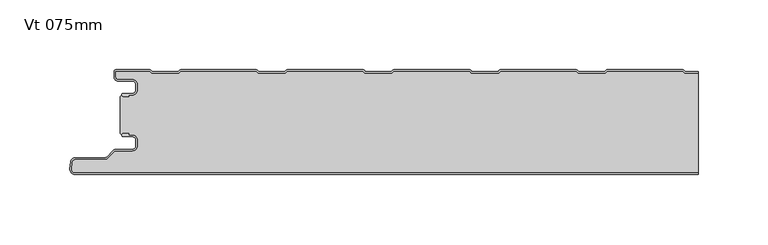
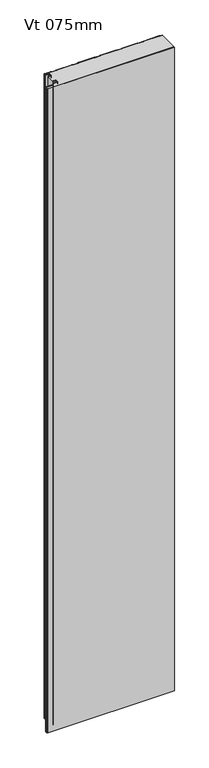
"""IFC4 building model written with IfcOpenShell, lengths in millimetres: plate geometry, KIP-MEX-KSS-1067-R19-CP-Vt-OP_SL : Vt 075mm."""

from ifc_helpers import new_model, si_unit, point, frame, frame_2d, origin, origin_with_axes, place, context, project, spatial, polyline, circle_curve, trimmed, segment, composite_curve, outline, extrude, source, transform, mapped, element, save
from ifc_brep_helpers import plane_surface, cylinder_surface, revolved_surface, advanced_brep


def vt_075mm_9d33335d(model_context):
    return source(origin(), model_context, "Body", "SolidModel", [
        advanced_brep(
        [(-204.468691, -17.0015159, 2400.0), (-205.4686883, -18.0015191, 2400.0), (-204.468691, -19.0015105, 2400.0), (-200.4684874, -19.0015105, 2400.0), (-200.4684874, -18.0015159, 2400.0), (-197.7762776, -18.0015159, 2400.0), (-194.4762819, -14.7015202, 2400.0), (-194.4762819, -10.301529, 2400.0), (-197.7762774, -7.0015335, 2400.0), (-208.1962563, -7.0015335, 2400.0), (-209.9662505, -5.2315393, 2400.0), (-209.9662505, -0.9999916, 2400.0), (-185.4659738, -0.9999916, 2400.0), (-184.0803312, -2.2002307, 2400.0), (-164.7051649, -2.2002307, 2400.0), (-163.319532, -1.0, 2400.0), (-109.2661166, -1.0, 2400.0), (-107.8804836, -2.2002307, 2400.0), (-88.5053173, -2.2002307, 2400.0), (-87.1196844, -1.0, 2400.0), (-33.066269, -1.0, 2400.0), (-31.680636, -2.2002307, 2400.0), (-12.3054697, -2.2002307, 2400.0), (-10.9198368, -1.0, 2400.0), (43.1335786, -1.0, 2400.0), (44.5192116, -2.2002307, 2400.0), (63.8943779, -2.2002307, 2400.0), (65.2800108, -1.0, 2400.0), (119.3334262, -1.0, 2400.0), (120.7190592, -2.2002307, 2400.0), (140.0942255, -2.2002307, 2400.0), (141.4798584, -1.0, 2400.0), (195.5332738, -1.0, 2400.0), (196.9189068, -2.2002307, 2400.0), (206.4999998, -2.2002307, 2400.0), (206.4999998, -1.2002307, 2400.0), (197.2917872, -1.2002307, 2400.0), (196.3007396, -0.3417885, 2400.0), (195.3841227, 0.0, 2400.0), (141.6290096, 0.0, 2400.0), (140.7123927, -0.3417885, 2400.0), (139.7213451, -1.2002307, 2400.0), (121.0919396, -1.2002307, 2400.0), (120.100892, -0.3417885, 2400.0), (119.1842751, 0.0, 2400.0), (65.429162, 0.0, 2400.0), (64.5125451, -0.3417885, 2400.0), (63.5214975, -1.2002307, 2400.0), (44.892092, -1.2002307, 2400.0), (43.9010444, -0.3417885, 2400.0), (42.9844275, 0.0, 2400.0), (-10.7706856, 0.0, 2400.0), (-11.6873025, -0.3417885, 2400.0), (-12.6783501, -1.2002307, 2400.0), (-31.3077556, -1.2002307, 2400.0), (-32.2988032, -0.3417885, 2400.0), (-33.2154201, 0.0, 2400.0), (-86.9705332, 0.0, 2400.0), (-87.8871501, -0.3417885, 2400.0), (-88.8781977, -1.2002307, 2400.0), (-107.5076032, -1.2002307, 2400.0), (-108.4986508, -0.3417885, 2400.0), (-109.4152677, 0.0, 2400.0), (-163.1703808, 0.0, 2400.0), (-164.0869977, -0.3417885, 2400.0), (-165.0780453, -1.2002307, 2400.0), (-183.7074508, -1.2002307, 2400.0), (-184.6984984, -0.3417885, 2400.0), (-185.6152067, 0.0, 2400.0), (-209.5662543, 8.4e-06, 2400.0), (-210.9662505, -1.3999878, 2400.0), (-210.9662505, -5.2315393, 2400.0), (-208.1962563, -8.0015335, 2400.0), (-197.7762774, -8.0015335, 2400.0), (-195.4762819, -10.301529, 2400.0), (-195.4762819, -14.7015202, 2400.0), (-197.7762776, -17.0015159, 2400.0), (-204.468691, -17.0015159, 0.0), (-197.7762776, -17.0015159, 0.0), (-195.4762819, -14.7015202, 0.0), (-195.4762819, -10.301529, 0.0), (-197.7762774, -8.0015335, 0.0), (-208.1962563, -8.0015335, 0.0), (-210.9662505, -5.2315393, 0.0), (-210.9662505, -1.3999878, 0.0), (-209.5662543, 8.4e-06, 0.0), (-185.6151153, 8.4e-06, 0.0), (-184.6984984, -0.3417885, 0.0), (-183.7074508, -1.2002307, 0.0), (-165.0780453, -1.2002307, 0.0), (-164.0869977, -0.3417885, 0.0), (-163.1703808, 0.0, 0.0), (-109.4152677, 0.0, 0.0), (-108.4986508, -0.3417885, 0.0), (-107.5076032, -1.2002307, 0.0), (-88.8781977, -1.2002307, 0.0), (-87.8871501, -0.3417885, 0.0), (-86.9705332, 0.0, 0.0), (-33.2154201, 0.0, 0.0), (-32.2988032, -0.3417885, 0.0), (-31.3077556, -1.2002307, 0.0), (-12.6783501, -1.2002307, 0.0), (-11.6873025, -0.3417885, 0.0), (-10.7706856, 0.0, 0.0), (42.9844275, 0.0, 0.0), (43.9010444, -0.3417885, 0.0), (44.892092, -1.2002307, 0.0), (63.5214975, -1.2002307, 0.0), (64.5125451, -0.3417885, 0.0), (65.429162, 0.0, 0.0), (119.1842751, 0.0, 0.0), (120.100892, -0.3417885, 0.0), (121.0919396, -1.2002307, 0.0), (139.7213451, -1.2002307, 0.0), (140.7123927, -0.3417885, 0.0), (141.6290096, 0.0, 0.0), (195.3841227, 0.0, 0.0), (196.3007396, -0.3417885, 0.0), (197.2917872, -1.2002307, 0.0), (206.4999998, -1.2002307, 0.0), (206.4999998, -2.2002307, 0.0), (196.9189068, -2.2002307, 0.0), (195.5332738, -1.0, 0.0), (141.4798584, -1.0, 0.0), (140.0942255, -2.2002307, 0.0), (120.7190592, -2.2002307, 0.0), (119.3334262, -1.0, 0.0), (65.2800108, -1.0, 0.0), (63.8943779, -2.2002307, 0.0), (44.5192116, -2.2002307, 0.0), (43.1335786, -1.0, 0.0), (-10.9198368, -1.0, 0.0), (-12.3054697, -2.2002307, 0.0), (-31.680636, -2.2002307, 0.0), (-33.066269, -1.0, 0.0), (-87.1196844, -1.0, 0.0), (-88.5053173, -2.2002307, 0.0), (-107.8804836, -2.2002307, 0.0), (-109.2661166, -1.0, 0.0), (-163.319532, -1.0, 0.0), (-164.7051649, -2.2002307, 0.0), (-184.0803312, -2.2002307, 0.0), (-185.4659738, -0.9999916, 0.0), (-209.9662505, -0.9999916, 0.0), (-209.9662505, -5.2315393, 0.0), (-208.1962563, -7.0015335, 0.0), (-197.7762774, -7.0015335, 0.0), (-194.4762819, -10.301529, 0.0), (-194.4762819, -14.7015202, 0.0), (-197.7762776, -18.0015159, 0.0), (-200.4684874, -18.0015159, 0.0), (-200.4684874, -19.0015105, 0.0), (-204.468691, -19.0015105, 0.0), (-205.4686882, -18.0015192, 0.0)],
        [
            (0, 1, circle_curve(frame((-204.468691, -18.0015132, 2400.0), z_axis=(0.0, 0.0, 1.0), x_axis=(1.0, 0.0, 0.0)), 0.9999973)),
            (1, 2, circle_curve(frame((-204.468691, -18.0015133, 2400.0), z_axis=(0.0, 0.0, 1.0), x_axis=(1.0, 0.0, 0.0)), 0.9999972)),
            (2, 3),
            (3, 4),
            (4, 5),
            (5, 6, circle_curve(frame((-197.7762776, -14.7015202, 2400.0), z_axis=(0.0, 0.0, 1.0), x_axis=(1.0, 0.0, 0.0)), 3.2999957)),
            (6, 7),
            (7, 8, circle_curve(frame((-197.7762774, -10.301529, 2400.0), z_axis=(0.0, 0.0, 1.0), x_axis=(1.0, 0.0, 0.0)), 3.2999955)),
            (8, 9),
            (9, 10, circle_curve(frame((-208.1962563, -5.2315393, 2400.0), z_axis=(0.0, 0.0, -1.0), x_axis=(1.0, 0.0, 0.0)), 1.7699942)),
            (10, 11),
            (11, 12),
            (12, 13),
            (13, 14),
            (14, 15),
            (15, 16),
            (16, 17),
            (17, 18),
            (18, 19),
            (19, 20),
            (20, 21),
            (21, 22),
            (22, 23),
            (23, 24),
            (24, 25),
            (25, 26),
            (26, 27),
            (27, 28),
            (28, 29),
            (29, 30),
            (30, 31),
            (31, 32),
            (32, 33),
            (33, 34),
            (34, 35),
            (35, 36),
            (36, 37),
            (37, 38, circle_curve(frame((195.3841227, -1.3999972, 2400.0), z_axis=(0.0, 0.0, 1.0), x_axis=(1.0, 0.0, 0.0)), 1.3999972)),
            (38, 39),
            (39, 40, circle_curve(frame((141.6290096, -1.3999972, 2400.0), z_axis=(0.0, 0.0, 1.0), x_axis=(1.0, 0.0, 0.0)), 1.3999972)),
            (40, 41),
            (41, 42),
            (42, 43),
            (43, 44, circle_curve(frame((119.1842751, -1.3999972, 2400.0), z_axis=(0.0, 0.0, 1.0), x_axis=(1.0, 0.0, 0.0)), 1.3999972)),
            (44, 45),
            (45, 46, circle_curve(frame((65.429162, -1.3999972, 2400.0), z_axis=(0.0, 0.0, 1.0), x_axis=(1.0, 0.0, 0.0)), 1.3999972)),
            (46, 47),
            (47, 48),
            (48, 49),
            (49, 50, circle_curve(frame((42.9844275, -1.3999972, 2400.0), z_axis=(0.0, 0.0, 1.0), x_axis=(1.0, 0.0, 0.0)), 1.3999972)),
            (50, 51),
            (51, 52, circle_curve(frame((-10.7706856, -1.3999972, 2400.0), z_axis=(0.0, 0.0, 1.0), x_axis=(1.0, 0.0, 0.0)), 1.3999972)),
            (52, 53),
            (53, 54),
            (54, 55),
            (55, 56, circle_curve(frame((-33.2154201, -1.3999972, 2400.0), z_axis=(0.0, 0.0, 1.0), x_axis=(1.0, 0.0, 0.0)), 1.3999972)),
            (56, 57),
            (57, 58, circle_curve(frame((-86.9705332, -1.3999972, 2400.0), z_axis=(0.0, 0.0, 1.0), x_axis=(1.0, 0.0, 0.0)), 1.3999972)),
            (58, 59),
            (59, 60),
            (60, 61),
            (61, 62, circle_curve(frame((-109.4152677, -1.3999972, 2400.0), z_axis=(0.0, 0.0, 1.0), x_axis=(1.0, 0.0, 0.0)), 1.3999972)),
            (62, 63),
            (63, 64, circle_curve(frame((-163.1703808, -1.3999972, 2400.0), z_axis=(0.0, 0.0, 1.0), x_axis=(1.0, 0.0, 0.0)), 1.3999972)),
            (64, 65),
            (65, 66),
            (66, 67),
            (67, 68, circle_curve(frame((-185.6151153, -1.3999972, 2400.0), z_axis=(0.0, 0.0, 1.0), x_axis=(1.0, 0.0, 0.0)), 1.3999972)),
            (68, 69),
            (69, 70, circle_curve(frame((-209.5662543, -1.3999878, 2400.0), z_axis=(0.0, 0.0, 1.0), x_axis=(1.0, 0.0, 0.0)), 1.3999962)),
            (70, 71),
            (71, 72, circle_curve(frame((-208.1962563, -5.2315393, 2400.0), z_axis=(0.0, 0.0, 1.0), x_axis=(1.0, 0.0, 0.0)), 2.7699942)),
            (72, 73),
            (73, 74, circle_curve(frame((-197.7762774, -10.301529, 2400.0), z_axis=(0.0, 0.0, -1.0), x_axis=(1.0, 0.0, 0.0)), 2.2999955)),
            (74, 75),
            (75, 76, circle_curve(frame((-197.7762776, -14.7015202, 2400.0), z_axis=(0.0, 0.0, -1.0), x_axis=(1.0, 0.0, 0.0)), 2.2999957)),
            (76, 0),
            (77, 78),
            (78, 79, circle_curve(frame((-197.7762776, -14.7015202, 0.0), z_axis=(0.0, 0.0, 1.0), x_axis=(1.0, 0.0, 0.0)), 2.2999957)),
            (79, 80),
            (80, 81, circle_curve(frame((-197.7762774, -10.301529, 0.0), z_axis=(0.0, 0.0, 1.0), x_axis=(1.0, 0.0, 0.0)), 2.2999955)),
            (81, 82),
            (82, 83, circle_curve(frame((-208.1962563, -5.2315393, 0.0), z_axis=(0.0, 0.0, -1.0), x_axis=(1.0, 0.0, 0.0)), 2.7699942)),
            (83, 84),
            (84, 85, circle_curve(frame((-209.5662543, -1.3999878, 0.0), z_axis=(0.0, 0.0, -1.0), x_axis=(1.0, 0.0, 0.0)), 1.3999962)),
            (85, 86),
            (86, 87, circle_curve(frame((-185.6151153, -1.3999972, 0.0), z_axis=(0.0, 0.0, -1.0), x_axis=(1.0, 0.0, 0.0)), 1.3999972)),
            (87, 88),
            (88, 89),
            (89, 90),
            (90, 91, circle_curve(frame((-163.1703808, -1.3999972, 0.0), z_axis=(0.0, 0.0, -1.0), x_axis=(1.0, 0.0, 0.0)), 1.3999972)),
            (91, 92),
            (92, 93, circle_curve(frame((-109.4152677, -1.3999972, 0.0), z_axis=(0.0, 0.0, -1.0), x_axis=(1.0, 0.0, 0.0)), 1.3999972)),
            (93, 94),
            (94, 95),
            (95, 96),
            (96, 97, circle_curve(frame((-86.9705332, -1.3999972, 0.0), z_axis=(0.0, 0.0, -1.0), x_axis=(1.0, 0.0, 0.0)), 1.3999972)),
            (97, 98),
            (98, 99, circle_curve(frame((-33.2154201, -1.3999972, 0.0), z_axis=(0.0, 0.0, -1.0), x_axis=(1.0, 0.0, 0.0)), 1.3999972)),
            (99, 100),
            (100, 101),
            (101, 102),
            (102, 103, circle_curve(frame((-10.7706856, -1.3999972, 0.0), z_axis=(0.0, 0.0, -1.0), x_axis=(1.0, 0.0, 0.0)), 1.3999972)),
            (103, 104),
            (104, 105, circle_curve(frame((42.9844275, -1.3999972, 0.0), z_axis=(0.0, 0.0, -1.0), x_axis=(1.0, 0.0, 0.0)), 1.3999972)),
            (105, 106),
            (106, 107),
            (107, 108),
            (108, 109, circle_curve(frame((65.429162, -1.3999972, 0.0), z_axis=(0.0, 0.0, -1.0), x_axis=(1.0, 0.0, 0.0)), 1.3999972)),
            (109, 110),
            (110, 111, circle_curve(frame((119.1842751, -1.3999972, 0.0), z_axis=(0.0, 0.0, -1.0), x_axis=(1.0, 0.0, 0.0)), 1.3999972)),
            (111, 112),
            (112, 113),
            (113, 114),
            (114, 115, circle_curve(frame((141.6290096, -1.3999972, 0.0), z_axis=(0.0, 0.0, -1.0), x_axis=(1.0, 0.0, 0.0)), 1.3999972)),
            (115, 116),
            (116, 117, circle_curve(frame((195.3841227, -1.3999972, 0.0), z_axis=(0.0, 0.0, -1.0), x_axis=(1.0, 0.0, 0.0)), 1.3999972)),
            (117, 118),
            (118, 119),
            (119, 120),
            (120, 121),
            (121, 122),
            (122, 123),
            (123, 124),
            (124, 125),
            (125, 126),
            (126, 127),
            (127, 128),
            (128, 129),
            (129, 130),
            (130, 131),
            (131, 132),
            (132, 133),
            (133, 134),
            (134, 135),
            (135, 136),
            (136, 137),
            (137, 138),
            (138, 139),
            (139, 140),
            (140, 141),
            (141, 142),
            (142, 143),
            (143, 144),
            (144, 145, circle_curve(frame((-208.1962563, -5.2315393, 0.0), z_axis=(0.0, 0.0, 1.0), x_axis=(1.0, 0.0, 0.0)), 1.7699942)),
            (145, 146),
            (146, 147, circle_curve(frame((-197.7762774, -10.301529, 0.0), z_axis=(0.0, 0.0, -1.0), x_axis=(1.0, 0.0, 0.0)), 3.2999955)),
            (147, 148),
            (148, 149, circle_curve(frame((-197.7762776, -14.7015202, 0.0), z_axis=(0.0, 0.0, -1.0), x_axis=(1.0, 0.0, 0.0)), 3.2999957)),
            (149, 150),
            (150, 151),
            (151, 152),
            (152, 153, circle_curve(frame((-204.468691, -18.0015133, 0.0), z_axis=(0.0, 0.0, -1.0), x_axis=(1.0, 0.0, 0.0)), 0.9999972)),
            (153, 77, circle_curve(frame((-204.468691, -18.0015132, 0.0), z_axis=(0.0, 0.0, -1.0), x_axis=(1.0, 0.0, 0.0)), 0.9999973)),
            (76, 78),
            (77, 0),
            (75, 79),
            (74, 80),
            (73, 81),
            (72, 82),
            (71, 83),
            (70, 84),
            (69, 85),
            (68, 86),
            (67, 87),
            (66, 88),
            (65, 89),
            (64, 90),
            (63, 91),
            (62, 92),
            (61, 93),
            (60, 94),
            (59, 95),
            (58, 96),
            (57, 97),
            (56, 98),
            (55, 99),
            (54, 100),
            (53, 101),
            (52, 102),
            (51, 103),
            (50, 104),
            (49, 105),
            (48, 106),
            (47, 107),
            (46, 108),
            (45, 109),
            (44, 110),
            (43, 111),
            (42, 112),
            (41, 113),
            (40, 114),
            (39, 115),
            (38, 116),
            (37, 117),
            (36, 118),
            (35, 119),
            (120, 34),
            (33, 121),
            (32, 122),
            (31, 123),
            (30, 124),
            (29, 125),
            (28, 126),
            (27, 127),
            (26, 128),
            (25, 129),
            (24, 130),
            (23, 131),
            (22, 132),
            (21, 133),
            (20, 134),
            (19, 135),
            (18, 136),
            (17, 137),
            (16, 138),
            (15, 139),
            (14, 140),
            (13, 141),
            (12, 142),
            (11, 143),
            (10, 144),
            (9, 145),
            (8, 146),
            (7, 147),
            (6, 148),
            (5, 149),
            (4, 150),
            (3, 151),
            (2, 152),
            (1, 153),
        ],
        [
            plane_surface(frame((326.9000002, 0.0, 2400.0), z_axis=(0.0, 0.0, 1.0), x_axis=(0.0, 1.0, 0.0))),
            plane_surface(frame((326.9000002, 0.0, 0.0), z_axis=(0.0, 0.0, -1.0), x_axis=(0.0, 1.0, 0.0))),
            plane_surface(frame((-204.468691, -17.0015159, 2400.0), z_axis=(0.0, 1.0, 0.0), x_axis=(0.0, 0.0, -1.0))),
            revolved_surface(polyline([(-195.47628189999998, -14.7015202, 0.0), (-195.47628189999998, -14.7015202, 2400.0)]), (-197.7762776, -14.7015202, 2400.0), (0.0, 0.0, -1.0)),
            plane_surface(frame((-195.4762819, -14.7015202, 2400.0), z_axis=(-1.0, 0.0, 0.0), x_axis=(0.0, 0.0, -1.0))),
            revolved_surface(polyline([(-195.4762819, -10.301529, 0.0), (-195.4762819, -10.301529, 2400.0)]), (-197.7762774, -10.301529, 2400.0), (0.0, 0.0, -1.0)),
            plane_surface(frame((-197.7762774, -8.0015335, 2400.0), z_axis=(0.0, -1.0, 0.0), x_axis=(0.0, 0.0, -1.0))),
            cylinder_surface(frame((-208.1962563, -5.2315393, 2400.0), z_axis=(0.0, 0.0, 1.0), x_axis=(1.0, 0.0, 0.0)), 2.7699942),
            plane_surface(frame((-210.9662505, -5.2315393, 2400.0), z_axis=(-1.0, 0.0, 0.0), x_axis=(0.0, 0.0, -1.0))),
            cylinder_surface(frame((-209.5662543, -1.3999878, 2400.0), z_axis=(0.0, 0.0, 1.0), x_axis=(1.0, 0.0, 0.0)), 1.3999962),
            plane_surface(frame((-209.5662543, 8.4e-06, 2400.0), z_axis=(0.0, 1.0, 0.0), x_axis=(0.0, 0.0, -1.0))),
            cylinder_surface(frame((-185.6151153, -1.3999972, 2400.0), z_axis=(0.0, 0.0, 1.0), x_axis=(1.0, 0.0, 0.0)), 1.3999972),
            plane_surface(frame((-184.6984984, -0.3417885, 2400.0), z_axis=(0.6547276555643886, 0.755864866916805, 0.0), x_axis=(0.0, 0.0, -1.0))),
            plane_surface(frame((-174.3927481, -1.2002307, 2400.0), z_axis=(0.0, 1.0, 0.0), x_axis=(0.0, 0.0, -1.0))),
            plane_surface(frame((-165.0780453, -1.2002307, 2400.0), z_axis=(-0.6547276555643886, 0.755864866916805, 0.0), x_axis=(0.0, 0.0, -1.0))),
            cylinder_surface(frame((-163.1703808, -1.3999972, 2400.0), z_axis=(0.0, 0.0, 1.0), x_axis=(1.0, 0.0, 0.0)), 1.3999972),
            plane_surface(frame((-163.1703808, 0.0, 2400.0), z_axis=(0.0, 1.0, 0.0), x_axis=(0.0, 0.0, -1.0))),
            cylinder_surface(frame((-109.4152677, -1.3999972, 2400.0), z_axis=(0.0, 0.0, 1.0), x_axis=(1.0, 0.0, 0.0)), 1.3999972),
            plane_surface(frame((-108.4986508, -0.3417885, 2400.0), z_axis=(0.6547276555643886, 0.755864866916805, 0.0), x_axis=(0.0, 0.0, -1.0))),
            plane_surface(frame((-98.1929005, -1.2002307, 2400.0), z_axis=(0.0, 1.0, 0.0), x_axis=(0.0, 0.0, -1.0))),
            plane_surface(frame((-88.8781977, -1.2002307, 2400.0), z_axis=(-0.6547276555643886, 0.755864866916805, 0.0), x_axis=(0.0, 0.0, -1.0))),
            cylinder_surface(frame((-86.9705332, -1.3999972, 2400.0), z_axis=(0.0, 0.0, 1.0), x_axis=(1.0, 0.0, 0.0)), 1.3999972),
            plane_surface(frame((-86.9705332, 0.0, 2400.0), z_axis=(0.0, 1.0, 0.0), x_axis=(0.0, 0.0, -1.0))),
            cylinder_surface(frame((-33.2154201, -1.3999972, 2400.0), z_axis=(0.0, 0.0, 1.0), x_axis=(1.0, 0.0, 0.0)), 1.3999972),
            plane_surface(frame((-32.2988032, -0.3417885, 2400.0), z_axis=(0.6547276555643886, 0.755864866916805, 0.0), x_axis=(0.0, 0.0, -1.0))),
            plane_surface(frame((-21.9930529, -1.2002307, 2400.0), z_axis=(0.0, 1.0, 0.0), x_axis=(0.0, 0.0, -1.0))),
            plane_surface(frame((-12.6783501, -1.2002307, 2400.0), z_axis=(-0.6547276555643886, 0.755864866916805, 0.0), x_axis=(0.0, 0.0, -1.0))),
            cylinder_surface(frame((-10.7706856, -1.3999972, 2400.0), z_axis=(0.0, 0.0, 1.0), x_axis=(1.0, 0.0, 0.0)), 1.3999972),
            plane_surface(frame((-10.7706856, 0.0, 2400.0), z_axis=(0.0, 1.0, 0.0), x_axis=(0.0, 0.0, -1.0))),
            cylinder_surface(frame((42.9844275, -1.3999972, 2400.0), z_axis=(0.0, 0.0, 1.0), x_axis=(1.0, 0.0, 0.0)), 1.3999972),
            plane_surface(frame((43.9010444, -0.3417885, 2400.0), z_axis=(0.6547276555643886, 0.755864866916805, 0.0), x_axis=(0.0, 0.0, -1.0))),
            plane_surface(frame((54.2067947, -1.2002307, 2400.0), z_axis=(0.0, 1.0, 0.0), x_axis=(0.0, 0.0, -1.0))),
            plane_surface(frame((63.5214975, -1.2002307, 2400.0), z_axis=(-0.6547276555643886, 0.755864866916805, 0.0), x_axis=(0.0, 0.0, -1.0))),
            cylinder_surface(frame((65.429162, -1.3999972, 2400.0), z_axis=(0.0, 0.0, 1.0), x_axis=(1.0, 0.0, 0.0)), 1.3999972),
            plane_surface(frame((65.429162, 0.0, 2400.0), z_axis=(0.0, 1.0, 0.0), x_axis=(0.0, 0.0, -1.0))),
            cylinder_surface(frame((119.1842751, -1.3999972, 2400.0), z_axis=(0.0, 0.0, 1.0), x_axis=(1.0, 0.0, 0.0)), 1.3999972),
            plane_surface(frame((120.100892, -0.3417885, 2400.0), z_axis=(0.6547276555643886, 0.755864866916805, 0.0), x_axis=(0.0, 0.0, -1.0))),
            plane_surface(frame((130.4066423, -1.2002307, 2400.0), z_axis=(0.0, 1.0, 0.0), x_axis=(0.0, 0.0, -1.0))),
            plane_surface(frame((139.7213451, -1.2002307, 2400.0), z_axis=(-0.6547276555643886, 0.755864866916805, 0.0), x_axis=(0.0, 0.0, -1.0))),
            cylinder_surface(frame((141.6290096, -1.3999972, 2400.0), z_axis=(0.0, 0.0, 1.0), x_axis=(1.0, 0.0, 0.0)), 1.3999972),
            plane_surface(frame((141.6290096, 0.0, 2400.0), z_axis=(0.0, 1.0, 0.0), x_axis=(0.0, 0.0, -1.0))),
            cylinder_surface(frame((195.3841227, -1.3999972, 2400.0), z_axis=(0.0, 0.0, 1.0), x_axis=(1.0, 0.0, 0.0)), 1.3999972),
            plane_surface(frame((196.3007396, -0.3417885, 2400.0), z_axis=(0.6547276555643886, 0.755864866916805, 0.0), x_axis=(0.0, 0.0, -1.0))),
            plane_surface(frame((206.6064899, -1.2002307, 2400.0), z_axis=(0.0, 1.0, 0.0), x_axis=(0.0, 0.0, -1.0))),
            plane_surface(frame((216.2940731, -2.2002307, 2400.0), z_axis=(0.0, -1.0, 0.0), x_axis=(0.0, 0.0, -1.0))),
            plane_surface(frame((196.9189068, -2.2002307, 2400.0), z_axis=(-0.6547276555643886, -0.755864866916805, 0.0), x_axis=(0.0, 0.0, -1.0))),
            plane_surface(frame((195.5332738, -1.0, 2400.0), z_axis=(0.0, -1.0, 0.0), x_axis=(0.0, 0.0, -1.0))),
            plane_surface(frame((141.4798584, -1.0, 2400.0), z_axis=(0.6547276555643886, -0.755864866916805, 0.0), x_axis=(0.0, 0.0, -1.0))),
            plane_surface(frame((140.0942255, -2.2002307, 2400.0), z_axis=(0.0, -1.0, 0.0), x_axis=(0.0, 0.0, -1.0))),
            plane_surface(frame((120.7190592, -2.2002307, 2400.0), z_axis=(-0.6547276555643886, -0.755864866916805, 0.0), x_axis=(0.0, 0.0, -1.0))),
            plane_surface(frame((119.3334262, -1.0, 2400.0), z_axis=(0.0, -1.0, 0.0), x_axis=(0.0, 0.0, -1.0))),
            plane_surface(frame((65.2800108, -1.0, 2400.0), z_axis=(0.6547276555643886, -0.755864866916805, 0.0), x_axis=(0.0, 0.0, -1.0))),
            plane_surface(frame((63.8943779, -2.2002307, 2400.0), z_axis=(0.0, -1.0, 0.0), x_axis=(0.0, 0.0, -1.0))),
            plane_surface(frame((44.5192116, -2.2002307, 2400.0), z_axis=(-0.6547276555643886, -0.755864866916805, 0.0), x_axis=(0.0, 0.0, -1.0))),
            plane_surface(frame((43.1335786, -1.0, 2400.0), z_axis=(0.0, -1.0, 0.0), x_axis=(0.0, 0.0, -1.0))),
            plane_surface(frame((-10.9198368, -1.0, 2400.0), z_axis=(0.6547276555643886, -0.755864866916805, 0.0), x_axis=(0.0, 0.0, -1.0))),
            plane_surface(frame((-12.3054697, -2.2002307, 2400.0), z_axis=(0.0, -1.0, 0.0), x_axis=(0.0, 0.0, -1.0))),
            plane_surface(frame((-31.680636, -2.2002307, 2400.0), z_axis=(-0.6547276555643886, -0.755864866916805, 0.0), x_axis=(0.0, 0.0, -1.0))),
            plane_surface(frame((-33.066269, -1.0, 2400.0), z_axis=(0.0, -1.0, 0.0), x_axis=(0.0, 0.0, -1.0))),
            plane_surface(frame((-87.1196844, -1.0, 2400.0), z_axis=(0.6547276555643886, -0.755864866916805, 0.0), x_axis=(0.0, 0.0, -1.0))),
            plane_surface(frame((-88.5053173, -2.2002307, 2400.0), z_axis=(0.0, -1.0, 0.0), x_axis=(0.0, 0.0, -1.0))),
            plane_surface(frame((-107.8804836, -2.2002307, 2400.0), z_axis=(-0.6547276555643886, -0.755864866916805, 0.0), x_axis=(0.0, 0.0, -1.0))),
            plane_surface(frame((-109.2661166, -1.0, 2400.0), z_axis=(0.0, -1.0, 0.0), x_axis=(0.0, 0.0, -1.0))),
            plane_surface(frame((-163.319532, -1.0, 2400.0), z_axis=(0.6547276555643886, -0.755864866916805, 0.0), x_axis=(0.0, 0.0, -1.0))),
            plane_surface(frame((-164.7051649, -2.2002307, 2400.0), z_axis=(0.0, -1.0, 0.0), x_axis=(0.0, 0.0, -1.0))),
            plane_surface(frame((-184.0803312, -2.2002307, 2400.0), z_axis=(-0.6547276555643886, -0.755864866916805, 0.0), x_axis=(0.0, 0.0, -1.0))),
            plane_surface(frame((-185.4659738, -0.9999916, 2400.0), z_axis=(0.0, -1.0, 0.0), x_axis=(0.0, 0.0, -1.0))),
            plane_surface(frame((-209.9662505, -0.9999916, 2400.0), z_axis=(1.0, 0.0, 0.0), x_axis=(0.0, 0.0, -1.0))),
            revolved_surface(polyline([(-206.42626209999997, -5.2315393, 0.0), (-206.42626209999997, -5.2315393, 2400.0)]), (-208.1962563, -5.2315393, 2400.0), (0.0, 0.0, -1.0)),
            plane_surface(frame((-208.1962563, -7.0015335, 2400.0), z_axis=(0.0, 1.0, 0.0), x_axis=(0.0, 0.0, -1.0))),
            cylinder_surface(frame((-197.7762774, -10.301529, 2400.0), z_axis=(0.0, 0.0, 1.0), x_axis=(1.0, 0.0, 0.0)), 3.2999955),
            plane_surface(frame((-194.4762819, -10.301529, 2400.0), z_axis=(1.0, 0.0, 0.0), x_axis=(0.0, 0.0, -1.0))),
            cylinder_surface(frame((-197.7762776, -14.7015202, 2400.0), z_axis=(0.0, 0.0, 1.0), x_axis=(1.0, 0.0, 0.0)), 3.2999957),
            plane_surface(frame((-197.7762776, -18.0015159, 2400.0), z_axis=(0.0, -1.0, 0.0), x_axis=(0.0, 0.0, -1.0))),
            plane_surface(frame((-200.4684874, -18.0015159, 2400.0), z_axis=(1.0, 0.0, 0.0), x_axis=(0.0, 0.0, -1.0))),
            plane_surface(frame((-200.4684874, -19.0015105, 2400.0), z_axis=(0.0, -1.0, 0.0), x_axis=(0.0, 0.0, -1.0))),
            cylinder_surface(frame((-204.468691, -18.0015133, 2400.0), z_axis=(0.0, 0.0, 1.0), x_axis=(1.0, 0.0, 0.0)), 0.9999972),
            cylinder_surface(frame((-204.468691, -18.0015132, 2400.0), z_axis=(0.0, 0.0, 1.0), x_axis=(1.0, 0.0, 0.0)), 0.9999973),
            plane_surface(frame((206.4999998, -85.0, 2400.0), z_axis=(1.0, 0.0, 0.0), x_axis=(0.0, 0.0, -1.0))),
        ],
        [
            (0, [[1, 2, 3, 4, 5, 6, 7, 8, 9, 10, 11, 12, 13, 14, 15, 16, 17, 18, 19, 20, 21, 22, 23, 24, 25, 26, 27, 28, 29, 30, 31, 32, 33, 34, 35, 36, 37, 38, 39, 40, 41, 42, 43, 44, 45, 46, 47, 48, 49, 50, 51, 52, 53, 54, 55, 56, 57, 58, 59, 60, 61, 62, 63, 64, 65, 66, 67, 68, 69, 70, 71, 72, 73, 74, 75, 76, 77]]),
            (1, [[78, 79, 80, 81, 82, 83, 84, 85, 86, 87, 88, 89, 90, 91, 92, 93, 94, 95, 96, 97, 98, 99, 100, 101, 102, 103, 104, 105, 106, 107, 108, 109, 110, 111, 112, 113, 114, 115, 116, 117, 118, 119, 120, 121, 122, 123, 124, 125, 126, 127, 128, 129, 130, 131, 132, 133, 134, 135, 136, 137, 138, 139, 140, 141, 142, 143, 144, 145, 146, 147, 148, 149, 150, 151, 152, 153, 154]]),
            (2, [[155, -78, 156, -77]]),
            (3, [[157, -79, -155, -76]]),
            (4, [[158, -80, -157, -75]]),
            (5, [[159, -81, -158, -74]]),
            (6, [[160, -82, -159, -73]]),
            (7, [[161, -83, -160, -72]]),
            (8, [[162, -84, -161, -71]]),
            (9, [[163, -85, -162, -70]]),
            (10, [[164, -86, -163, -69]]),
            (11, [[165, -87, -164, -68]]),
            (12, [[166, -88, -165, -67]]),
            (13, [[167, -89, -166, -66]]),
            (14, [[168, -90, -167, -65]]),
            (15, [[169, -91, -168, -64]]),
            (16, [[170, -92, -169, -63]]),
            (17, [[171, -93, -170, -62]]),
            (18, [[172, -94, -171, -61]]),
            (19, [[173, -95, -172, -60]]),
            (20, [[174, -96, -173, -59]]),
            (21, [[175, -97, -174, -58]]),
            (22, [[176, -98, -175, -57]]),
            (23, [[177, -99, -176, -56]]),
            (24, [[178, -100, -177, -55]]),
            (25, [[179, -101, -178, -54]]),
            (26, [[180, -102, -179, -53]]),
            (27, [[181, -103, -180, -52]]),
            (28, [[182, -104, -181, -51]]),
            (29, [[183, -105, -182, -50]]),
            (30, [[184, -106, -183, -49]]),
            (31, [[185, -107, -184, -48]]),
            (32, [[186, -108, -185, -47]]),
            (33, [[187, -109, -186, -46]]),
            (34, [[188, -110, -187, -45]]),
            (35, [[189, -111, -188, -44]]),
            (36, [[190, -112, -189, -43]]),
            (37, [[191, -113, -190, -42]]),
            (38, [[192, -114, -191, -41]]),
            (39, [[193, -115, -192, -40]]),
            (40, [[194, -116, -193, -39]]),
            (41, [[195, -117, -194, -38]]),
            (42, [[196, -118, -195, -37]]),
            (43, [[-36, 197, -119, -196]]),
            (44, [[-121, 198, -34, 199]]),
            (45, [[200, -122, -199, -33]]),
            (46, [[201, -123, -200, -32]]),
            (47, [[202, -124, -201, -31]]),
            (48, [[203, -125, -202, -30]]),
            (49, [[204, -126, -203, -29]]),
            (50, [[205, -127, -204, -28]]),
            (51, [[206, -128, -205, -27]]),
            (52, [[207, -129, -206, -26]]),
            (53, [[208, -130, -207, -25]]),
            (54, [[209, -131, -208, -24]]),
            (55, [[210, -132, -209, -23]]),
            (56, [[211, -133, -210, -22]]),
            (57, [[212, -134, -211, -21]]),
            (58, [[213, -135, -212, -20]]),
            (59, [[214, -136, -213, -19]]),
            (60, [[215, -137, -214, -18]]),
            (61, [[216, -138, -215, -17]]),
            (62, [[217, -139, -216, -16]]),
            (63, [[218, -140, -217, -15]]),
            (64, [[219, -141, -218, -14]]),
            (65, [[220, -142, -219, -13]]),
            (66, [[221, -143, -220, -12]]),
            (67, [[222, -144, -221, -11]]),
            (68, [[223, -145, -222, -10]]),
            (69, [[224, -146, -223, -9]]),
            (70, [[225, -147, -224, -8]]),
            (71, [[226, -148, -225, -7]]),
            (72, [[227, -149, -226, -6]]),
            (73, [[228, -150, -227, -5]]),
            (74, [[229, -151, -228, -4]]),
            (75, [[230, -152, -229, -3]]),
            (76, [[231, -153, -230, -2]]),
            (77, [[-156, -154, -231, -1]]),
            (78, [[-198, -120, -197, -35]]),
        ],
    ),
        extrude(outline(composite_curve([segment(polyline([(-242.5087619, -71.1184903), (-242.0690674, -66.0944437)]), True, "CONTINUOUS"), segment(trimmed(circle_curve(frame_2d((-238.4198391, -66.7052448)), 3.6999926), [point((-242.0690674, -66.0944437))], [point((-238.4198391, -63.0052522))], False, "CARTESIAN"), True, "CONTINUOUS"), segment(polyline([(-238.4198391, -63.0052522), (-217.2773995, -63.0052522)]), True, "CONTINUOUS"), segment(trimmed(circle_curve(frame_2d((-217.2773995, -61.7052548)), 1.2999974), [point((-217.2773995, -63.0052522))], [point((-216.3581626, -62.6244918))], True, "CARTESIAN"), True, "CONTINUOUS"), segment(polyline([(-216.3581626, -62.6244918), (-211.5297451, -57.7960743)]), True, "CONTINUOUS"), segment(trimmed(circle_curve(frame_2d((-209.6205606, -59.7052588)), 2.6999946), [point((-211.5297451, -57.7960743))], [point((-209.6205606, -57.0052642))], False, "CARTESIAN"), True, "CONTINUOUS"), segment(polyline([(-209.6205606, -57.0052642), (-197.8096715, -57.0052642)]), True, "CONTINUOUS"), segment(trimmed(circle_curve(frame_2d((-197.8096715, -54.6552689)), 2.3499953), [point((-197.8096715, -57.0052642))], [point((-195.4596762, -54.6552689))], True, "CARTESIAN"), True, "CONTINUOUS"), segment(polyline([(-195.4596762, -54.6552689), (-195.4596762, -50.2552777)]), True, "CONTINUOUS"), segment(trimmed(circle_curve(frame_2d((-197.8096715, -50.2552777)), 2.3499953), [point((-195.4596762, -50.2552777))], [point((-197.8096715, -47.9052824))], True, "CARTESIAN"), True, "CONTINUOUS"), segment(polyline([(-197.8096715, -47.9052824), (-204.3289777, -47.9052824)]), True, "CONTINUOUS"), segment(trimmed(circle_curve(frame_2d((-204.2686906, -46.7068002)), 1.1999976), [point((-204.3289777, -47.9052824))], [point((-205.4683, -46.6762782))], False, "CARTESIAN"), True, "CONTINUOUS"), segment(trimmed(circle_curve(frame_2d((-204.2686906, -46.7068002)), 1.1999976), [point((-205.4683, -46.6762782))], [point((-204.267176, -45.5068035))], False, "CARTESIAN"), True, "CONTINUOUS"), segment(polyline([(-204.267176, -45.5068035), (-200.5087826, -45.5068035), (-200.5087826, -46.9052824), (-197.8096715, -46.9052824)]), True, "CONTINUOUS"), segment(trimmed(circle_curve(frame_2d((-197.8096715, -50.2552777)), 3.3499953), [point((-197.8096715, -46.9052824))], [point((-194.4596762, -50.2552777))], False, "CARTESIAN"), True, "CONTINUOUS"), segment(polyline([(-194.4596762, -50.2552777), (-194.4596762, -54.6552689)]), True, "CONTINUOUS"), segment(trimmed(circle_curve(frame_2d((-197.8096715, -54.6552689)), 3.3499953), [point((-194.4596762, -54.6552689))], [point((-197.8096715, -58.0052642))], False, "CARTESIAN"), True, "CONTINUOUS"), segment(polyline([(-197.8096715, -58.0052642), (-209.6205606, -58.0052642)]), True, "CONTINUOUS"), segment(trimmed(circle_curve(frame_2d((-209.6205606, -59.7052588)), 1.6999946), [point((-209.6205606, -58.0052642))], [point((-210.8226383, -58.5031811))], True, "CARTESIAN"), True, "CONTINUOUS"), segment(polyline([(-210.8226383, -58.5031811), (-216.3247094, -64.0052522), (-238.4198391, -64.0052522)]), True, "CONTINUOUS"), segment(trimmed(circle_curve(frame_2d((-238.4198391, -66.7052448)), 2.6999926), [point((-238.4198391, -64.0052522))], [point((-241.0765707, -66.2238542))], True, "CARTESIAN"), True, "CONTINUOUS"), segment(polyline([(-241.0765707, -66.2238542), (-241.5125697, -71.2056751)]), True, "CONTINUOUS"), segment(trimmed(circle_curve(frame_2d((-238.9521175, -71.4297607)), 2.5702393), [point((-241.5125697, -71.2056751))], [point((-239.0094458, -73.9993606))], True, "CARTESIAN"), True, "CONTINUOUS"), segment(polyline([(-239.0094458, -73.9993606), (206.4999998, -73.9993606), (206.4999998, -75.0), (-238.9521175, -75.0)]), True, "CONTINUOUS"), segment(trimmed(circle_curve(frame_2d((-238.9521175, -71.4297607)), 3.5702393), [point((-238.9521175, -75.0))], [point((-242.5087619, -71.1184903))], False, "CARTESIAN"), True, "CONTINUOUS")], self_intersect=False)), origin_with_axes(), (0.0, 0.0, 1.0), 2400.0),
        advanced_brep(
        [(-205.4683, -46.670875, 2400.0), (-204.267176, -45.5014003, 2400.0), (-200.5087826, -45.5014003, 2400.0), (-200.5087826, -46.8998791, 2400.0), (-197.8096715, -46.8998791, 2400.0), (-194.4596762, -50.2498744, 2400.0), (-194.4596762, -54.6498656, 2400.0), (-197.8096715, -57.9998609, 2400.0), (-209.6205606, -57.9998609, 2400.0), (-210.8226383, -58.4977778, 2400.0), (-216.3247094, -63.9998489, 2400.0), (-238.4198391, -63.9998489, 2400.0), (-241.0765707, -66.2184509, 2400.0), (-241.5125697, -71.2002718, 2400.0), (-238.9521175, -73.9945967, 2400.0), (206.4999998, -74.0, 2400.0), (206.4999998, -2.2002307, 2400.0), (196.9189068, -2.2002307, 2400.0), (195.5332739, -1.0, 2400.0), (141.4798585, -1.0, 2400.0), (140.0942255, -2.2002307, 2400.0), (120.7190592, -2.2002307, 2400.0), (119.3334263, -1.0, 2400.0), (65.2800109, -1.0, 2400.0), (63.8943779, -2.2002307, 2400.0), (44.5192116, -2.2002307, 2400.0), (43.1335787, -1.0, 2400.0), (-10.9198367, -1.0, 2400.0), (-12.3054697, -2.2002307, 2400.0), (-31.680636, -2.2002307, 2400.0), (-33.0662689, -1.0, 2400.0), (-87.1196843, -1.0, 2400.0), (-88.5053173, -2.2002307, 2400.0), (-107.8804836, -2.2002307, 2400.0), (-109.2661165, -1.0, 2400.0), (-163.3195319, -1.0, 2400.0), (-164.7051649, -2.2002307, 2400.0), (-184.0803312, -2.2002307, 2400.0), (-185.4659738, -0.9999916, 2400.0), (-209.9662504, -0.9999916, 2400.0), (-209.9662504, -5.2315389, 2400.0), (-208.1962562, -7.0015331, 2400.0), (-197.7762777, -7.0015331, 2400.0), (-194.4762818, -10.301529, 2400.0), (-194.4762818, -14.7015202, 2400.0), (-197.7762775, -18.0015159, 2400.0), (-200.4684873, -18.0015159, 2400.0), (-200.4684873, -19.0015105, 2400.0), (-204.468691, -19.0015105, 2400.0), (-205.4686882, -18.0015192, 2400.0), (-206.4999998, -19.0328308, 2400.0), (-206.4999998, -45.6391751, 2400.0), (-205.4683, -46.670875, 0.0), (-206.4999998, -45.6391751, 0.0), (-206.4999998, -19.0328308, 0.0), (-205.4686882, -18.0015192, 0.0), (-204.468691, -19.0015105, 0.0), (-200.4684873, -19.0015105, 0.0), (-200.4684873, -18.0015159, 0.0), (-197.7762775, -18.0015159, 0.0), (-194.4762818, -14.7015202, 0.0), (-194.4762818, -10.301529, 0.0), (-197.7762777, -7.0015331, 0.0), (-208.1962562, -7.0015331, 0.0), (-209.9662504, -5.2315389, 0.0), (-209.9662504, -0.9999916, 0.0), (-185.4659738, -0.9999916, 0.0), (-184.0803312, -2.2002307, 0.0), (-164.7051649, -2.2002307, 0.0), (-163.3195319, -1.0, 0.0), (-109.2661165, -1.0, 0.0), (-107.8804836, -2.2002307, 0.0), (-88.5053173, -2.2002307, 0.0), (-87.1196843, -1.0, 0.0), (-33.0662689, -1.0, 0.0), (-31.680636, -2.2002307, 0.0), (-12.3054697, -2.2002307, 0.0), (-10.9198367, -1.0, 0.0), (43.1335787, -1.0, 0.0), (44.5192116, -2.2002307, 0.0), (63.8943779, -2.2002307, 0.0), (65.2800109, -1.0, 0.0), (119.3334263, -1.0, 0.0), (120.7190592, -2.2002307, 0.0), (140.0942255, -2.2002307, 0.0), (141.4798585, -1.0, 0.0), (195.5332739, -1.0, 0.0), (196.9189068, -2.2002307, 0.0), (206.4999998, -2.2002307, 0.0), (206.4999998, -74.0, 0.0), (-238.9521175, -74.0, 0.0), (-241.5125697, -71.2002718, 0.0), (-241.0765707, -66.2184509, 0.0), (-238.4198391, -63.9998489, 0.0), (-216.3247094, -63.9998489, 0.0), (-210.8226383, -58.4977778, 0.0), (-209.6205606, -57.9998609, 0.0), (-197.8096715, -57.9998609, 0.0), (-194.4596762, -54.6498656, 0.0), (-194.4596762, -50.2498744, 0.0), (-197.8096715, -46.8998791, 0.0), (-200.5087826, -46.8998791, 0.0), (-200.5087826, -45.5014003, 0.0), (-204.267176, -45.5014003, 0.0)],
        [
            (0, 1, circle_curve(frame((-204.2686906, -46.7013969, 2400.0), z_axis=(0.0, 0.0, -1.0), x_axis=(-1.0, 0.0, 0.0)), 1.1999976)),
            (1, 2),
            (2, 3),
            (3, 4),
            (4, 5, circle_curve(frame((-197.8096715, -50.2498744, 2400.0), z_axis=(0.0, 0.0, -1.0), x_axis=(-1.0, 0.0, 0.0)), 3.3499953)),
            (5, 6),
            (6, 7, circle_curve(frame((-197.8096715, -54.6498656, 2400.0), z_axis=(0.0, 0.0, -1.0), x_axis=(-1.0, 0.0, 0.0)), 3.3499953)),
            (7, 8),
            (8, 9, circle_curve(frame((-209.6205606, -59.6998555, 2400.0), z_axis=(0.0, 0.0, 1.0), x_axis=(-1.0, 0.0, 0.0)), 1.6999946)),
            (9, 10),
            (10, 11),
            (11, 12, circle_curve(frame((-238.4198391, -66.6998415, 2400.0), z_axis=(0.0, 0.0, 1.0), x_axis=(-1.0, 0.0, 0.0)), 2.6999926)),
            (12, 13),
            (13, 14, circle_curve(frame((-238.9521175, -71.4243575, 2400.0), z_axis=(0.0, 0.0, 1.0), x_axis=(-1.0, 0.0, 0.0)), 2.5702393)),
            (14, 15),
            (15, 16),
            (16, 17),
            (17, 18),
            (18, 19),
            (19, 20),
            (20, 21),
            (21, 22),
            (22, 23),
            (23, 24),
            (24, 25),
            (25, 26),
            (26, 27),
            (27, 28),
            (28, 29),
            (29, 30),
            (30, 31),
            (31, 32),
            (32, 33),
            (33, 34),
            (34, 35),
            (35, 36),
            (36, 37),
            (37, 38),
            (38, 39),
            (39, 40),
            (40, 41, circle_curve(frame((-208.1962562, -5.2315389, 2400.0), z_axis=(0.0, 0.0, 1.0), x_axis=(-1.0, 0.0, 0.0)), 1.7699942)),
            (41, 42),
            (42, 43, circle_curve(frame((-197.7762777, -10.301529, 2400.0), z_axis=(0.0, 0.0, -1.0), x_axis=(-1.0, 0.0, 0.0)), 3.2999959)),
            (43, 44),
            (44, 45, circle_curve(frame((-197.7762775, -14.7015202, 2400.0), z_axis=(0.0, 0.0, -1.0), x_axis=(-1.0, 0.0, 0.0)), 3.2999957)),
            (45, 46),
            (46, 47),
            (47, 48),
            (48, 49, circle_curve(frame((-204.468691, -18.0015133, 2400.0), z_axis=(0.0, 0.0, -1.0), x_axis=(-1.0, 0.0, 0.0)), 0.9999972)),
            (49, 50),
            (50, 51),
            (51, 0),
            (52, 53),
            (53, 54),
            (54, 55),
            (55, 56, circle_curve(frame((-204.468691, -18.0015133, 0.0), z_axis=(0.0, 0.0, 1.0), x_axis=(-1.0, 0.0, 0.0)), 0.9999972)),
            (56, 57),
            (57, 58),
            (58, 59),
            (59, 60, circle_curve(frame((-197.7762775, -14.7015202, 0.0), z_axis=(0.0, 0.0, 1.0), x_axis=(-1.0, 0.0, 0.0)), 3.2999957)),
            (60, 61),
            (61, 62, circle_curve(frame((-197.7762777, -10.301529, 0.0), z_axis=(0.0, 0.0, 1.0), x_axis=(-1.0, 0.0, 0.0)), 3.2999959)),
            (62, 63),
            (63, 64, circle_curve(frame((-208.1962562, -5.2315389, 0.0), z_axis=(0.0, 0.0, -1.0), x_axis=(-1.0, 0.0, 0.0)), 1.7699942)),
            (64, 65),
            (65, 66),
            (66, 67),
            (67, 68),
            (68, 69),
            (69, 70),
            (70, 71),
            (71, 72),
            (72, 73),
            (73, 74),
            (74, 75),
            (75, 76),
            (76, 77),
            (77, 78),
            (78, 79),
            (79, 80),
            (80, 81),
            (81, 82),
            (82, 83),
            (83, 84),
            (84, 85),
            (85, 86),
            (86, 87),
            (87, 88),
            (88, 89),
            (89, 90),
            (90, 91, circle_curve(frame((-238.9521175, -71.4243575, 0.0), z_axis=(0.0, 0.0, -1.0), x_axis=(-1.0, 0.0, 0.0)), 2.5702393)),
            (91, 92),
            (92, 93, circle_curve(frame((-238.4198391, -66.6998415, 0.0), z_axis=(0.0, 0.0, -1.0), x_axis=(-1.0, 0.0, 0.0)), 2.6999926)),
            (93, 94),
            (94, 95),
            (95, 96, circle_curve(frame((-209.6205606, -59.6998555, 0.0), z_axis=(0.0, 0.0, -1.0), x_axis=(-1.0, 0.0, 0.0)), 1.6999946)),
            (96, 97),
            (97, 98, circle_curve(frame((-197.8096715, -54.6498656, 0.0), z_axis=(0.0, 0.0, 1.0), x_axis=(-1.0, 0.0, 0.0)), 3.3499953)),
            (98, 99),
            (99, 100, circle_curve(frame((-197.8096715, -50.2498744, 0.0), z_axis=(0.0, 0.0, 1.0), x_axis=(-1.0, 0.0, 0.0)), 3.3499953)),
            (100, 101),
            (101, 102),
            (102, 103),
            (103, 52, circle_curve(frame((-204.2686906, -46.7013969, 0.0), z_axis=(0.0, 0.0, 1.0), x_axis=(-1.0, 0.0, 0.0)), 1.1999976)),
            (49, 55),
            (54, 50),
            (48, 56),
            (47, 57),
            (46, 58),
            (45, 59),
            (44, 60),
            (43, 61),
            (42, 62),
            (41, 63),
            (40, 64),
            (39, 65),
            (38, 66),
            (37, 67),
            (36, 68),
            (35, 69),
            (34, 70),
            (33, 71),
            (32, 72),
            (31, 73),
            (30, 74),
            (29, 75),
            (28, 76),
            (27, 77),
            (26, 78),
            (25, 79),
            (24, 80),
            (23, 81),
            (22, 82),
            (21, 83),
            (20, 84),
            (19, 85),
            (18, 86),
            (17, 87),
            (16, 88),
            (15, 89),
            (51, 53),
            (52, 0),
            (14, 90),
            (13, 91),
            (12, 92),
            (11, 93),
            (10, 94),
            (9, 95),
            (8, 96),
            (7, 97),
            (6, 98),
            (5, 99),
            (4, 100),
            (3, 101),
            (2, 102),
            (1, 103),
        ],
        [
            plane_surface(frame((326.9000002, -74.0, 2400.0), z_axis=(0.0, 0.0, 1.0), x_axis=(0.0, -1.0, 0.0))),
            plane_surface(frame((326.9000002, -74.0, 0.0), z_axis=(0.0, 0.0, -1.0), x_axis=(0.0, -1.0, 0.0))),
            plane_surface(frame((-206.4999998, -19.0328308, 2400.0), z_axis=(-0.7071067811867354, 0.7071067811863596, 0.0), x_axis=(0.0, 0.0, -1.0))),
            revolved_surface(polyline([(-205.4686882, -18.0015133, 0.0), (-205.4686882, -18.0015133, 2400.0)]), (-204.468691, -18.0015133, 2400.0), (0.0, 0.0, -1.0)),
            plane_surface(frame((-204.468691, -19.0015105, 2400.0), z_axis=(0.0, 1.0, 0.0), x_axis=(0.0, 0.0, -1.0))),
            plane_surface(frame((-200.4684873, -19.0015105, 2400.0), z_axis=(-1.0, 0.0, 0.0), x_axis=(0.0, 0.0, -1.0))),
            plane_surface(frame((-200.4684873, -18.0015159, 2400.0), z_axis=(0.0, 1.0, 0.0), x_axis=(0.0, 0.0, -1.0))),
            revolved_surface(polyline([(-201.0762732, -14.7015202, 0.0), (-201.0762732, -14.7015202, 2400.0)]), (-197.7762775, -14.7015202, 2400.0), (0.0, 0.0, -1.0)),
            plane_surface(frame((-194.4762818, -14.7015202, 2400.0), z_axis=(-1.0, 0.0, 0.0), x_axis=(0.0, 0.0, -1.0))),
            revolved_surface(polyline([(-201.0762736, -10.301529, 0.0), (-201.0762736, -10.301529, 2400.0)]), (-197.7762777, -10.301529, 2400.0), (0.0, 0.0, -1.0)),
            plane_surface(frame((-197.7762777, -7.0015331, 2400.0), z_axis=(0.0, -1.0, 0.0), x_axis=(0.0, 0.0, -1.0))),
            cylinder_surface(frame((-208.1962562, -5.2315389, 2400.0), z_axis=(0.0, 0.0, 1.0), x_axis=(-1.0, 0.0, 0.0)), 1.7699942),
            plane_surface(frame((-209.9662504, -5.2315389, 2400.0), z_axis=(-1.0, 0.0, 0.0), x_axis=(0.0, 0.0, -1.0))),
            plane_surface(frame((-209.9662504, -0.9999916, 2400.0), z_axis=(0.0, 1.0, 0.0), x_axis=(0.0, 0.0, -1.0))),
            plane_surface(frame((-185.4659738, -0.9999916, 2400.0), z_axis=(0.6547276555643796, 0.7558648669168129, 0.0), x_axis=(0.0, 0.0, -1.0))),
            plane_surface(frame((-184.0803312, -2.2002307, 2400.0), z_axis=(0.0, 1.0, 0.0), x_axis=(0.0, 0.0, -1.0))),
            plane_surface(frame((-164.7051649, -2.2002307, 2400.0), z_axis=(-0.6547276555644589, 0.7558648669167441, 0.0), x_axis=(0.0, 0.0, -1.0))),
            plane_surface(frame((-163.3195319, -1.0, 2400.0), z_axis=(0.0, 1.0, 0.0), x_axis=(0.0, 0.0, -1.0))),
            plane_surface(frame((-109.2661165, -1.0, 2400.0), z_axis=(0.6547276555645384, 0.7558648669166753, 0.0), x_axis=(0.0, 0.0, -1.0))),
            plane_surface(frame((-107.8804836, -2.2002307, 2400.0), z_axis=(0.0, 1.0, 0.0), x_axis=(0.0, 0.0, -1.0))),
            plane_surface(frame((-88.5053173, -2.2002307, 2400.0), z_axis=(-0.6547276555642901, 0.7558648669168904, 0.0), x_axis=(0.0, 0.0, -1.0))),
            plane_surface(frame((-87.1196843, -1.0, 2400.0), z_axis=(0.0, 1.0, 0.0), x_axis=(0.0, 0.0, -1.0))),
            plane_surface(frame((-33.0662689, -1.0, 2400.0), z_axis=(0.6547276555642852, 0.7558648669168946, 0.0), x_axis=(0.0, 0.0, -1.0))),
            plane_surface(frame((-31.680636, -2.2002307, 2400.0), z_axis=(0.0, 1.0, 0.0), x_axis=(0.0, 0.0, -1.0))),
            plane_surface(frame((-12.3054697, -2.2002307, 2400.0), z_axis=(-0.6547276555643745, 0.7558648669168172, 0.0), x_axis=(0.0, 0.0, -1.0))),
            plane_surface(frame((-10.9198367, -1.0, 2400.0), z_axis=(0.0, 1.0, 0.0), x_axis=(0.0, 0.0, -1.0))),
            plane_surface(frame((43.1335787, -1.0, 2400.0), z_axis=(0.6547276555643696, 0.7558648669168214, 0.0), x_axis=(0.0, 0.0, -1.0))),
            plane_surface(frame((44.5192116, -2.2002307, 2400.0), z_axis=(0.0, 1.0, 0.0), x_axis=(0.0, 0.0, -1.0))),
            plane_surface(frame((63.8943779, -2.2002307, 2400.0), z_axis=(-0.6547276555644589, 0.7558648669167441, 0.0), x_axis=(0.0, 0.0, -1.0))),
            plane_surface(frame((65.2800109, -1.0, 2400.0), z_axis=(0.0, 1.0, 0.0), x_axis=(0.0, 0.0, -1.0))),
            plane_surface(frame((119.3334263, -1.0, 2400.0), z_axis=(0.654727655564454, 0.7558648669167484, 0.0), x_axis=(0.0, 0.0, -1.0))),
            plane_surface(frame((120.7190592, -2.2002307, 2400.0), z_axis=(0.0, 1.0, 0.0), x_axis=(0.0, 0.0, -1.0))),
            plane_surface(frame((140.0942255, -2.2002307, 2400.0), z_axis=(-0.6547276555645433, 0.7558648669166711, 0.0), x_axis=(0.0, 0.0, -1.0))),
            plane_surface(frame((141.4798585, -1.0, 2400.0), z_axis=(0.0, 1.0, 0.0), x_axis=(0.0, 0.0, -1.0))),
            plane_surface(frame((195.5332739, -1.0, 2400.0), z_axis=(0.6547276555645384, 0.7558648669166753, 0.0), x_axis=(0.0, 0.0, -1.0))),
            plane_surface(frame((196.9189068, -2.2002307, 2400.0), z_axis=(0.0, 1.0, 0.0), x_axis=(0.0, 0.0, -1.0))),
            plane_surface(frame((206.4999998, -85.0, 2400.0), z_axis=(1.0, 0.0, 0.0), x_axis=(0.0, 0.0, -1.0))),
            plane_surface(frame((-205.4683, -46.670875, 2400.0), z_axis=(-0.707106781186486, -0.7071067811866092, 0.0), x_axis=(0.0, 0.0, -1.0))),
            plane_surface(frame((818.1656221, -74.0, 2400.0), z_axis=(0.0, -1.0, 0.0), x_axis=(0.0, 0.0, -1.0))),
            cylinder_surface(frame((-238.9521175, -71.4243575, 2400.0), z_axis=(0.0, 0.0, 1.0), x_axis=(-1.0, 0.0, 0.0)), 2.5702393),
            plane_surface(frame((-206.4999998, -45.6391751, 2400.0), z_axis=(-1.0, 0.0, 0.0), x_axis=(0.0, 0.0, -1.0))),
            plane_surface(frame((-241.5125697, -71.2002718, 2400.0), z_axis=(-0.9961921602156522, 0.08718474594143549, 0.0), x_axis=(0.0, 0.0, -1.0))),
            cylinder_surface(frame((-238.4198391, -66.6998415, 2400.0), z_axis=(0.0, 0.0, 1.0), x_axis=(-1.0, 0.0, 0.0)), 2.6999926),
            plane_surface(frame((-238.4198391, -63.9998489, 2400.0), z_axis=(0.0, 1.0, 0.0), x_axis=(0.0, 0.0, -1.0))),
            plane_surface(frame((-216.3247094, -63.9998489, 2400.0), z_axis=(-0.7071067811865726, 0.7071067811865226, 0.0), x_axis=(0.0, 0.0, -1.0))),
            cylinder_surface(frame((-209.6205606, -59.6998555, 2400.0), z_axis=(0.0, 0.0, 1.0), x_axis=(-1.0, 0.0, 0.0)), 1.6999946),
            plane_surface(frame((-209.6205606, -57.9998609, 2400.0), z_axis=(0.0, 1.0, 0.0), x_axis=(0.0, 0.0, -1.0))),
            revolved_surface(polyline([(-201.1596668, -54.6498656, 0.0), (-201.1596668, -54.6498656, 2400.0)]), (-197.8096715, -54.6498656, 2400.0), (0.0, 0.0, -1.0)),
            plane_surface(frame((-194.4596762, -54.6498656, 2400.0), z_axis=(-1.0, 0.0, 0.0), x_axis=(0.0, 0.0, -1.0))),
            revolved_surface(polyline([(-201.1596668, -50.2498744, 0.0), (-201.1596668, -50.2498744, 2400.0)]), (-197.8096715, -50.2498744, 2400.0), (0.0, 0.0, -1.0)),
            plane_surface(frame((-197.8096715, -46.8998791, 2400.0), z_axis=(0.0, -1.0, 0.0), x_axis=(0.0, 0.0, -1.0))),
            plane_surface(frame((-200.5087826, -46.8998791, 2400.0), z_axis=(-1.0, 0.0, 0.0), x_axis=(0.0, 0.0, -1.0))),
            plane_surface(frame((-200.5087826, -45.5014003, 2400.0), z_axis=(0.0, -1.0, 0.0), x_axis=(0.0, 0.0, -1.0))),
            revolved_surface(polyline([(-205.4686882, -46.7013969, 0.0), (-205.4686882, -46.7013969, 2400.0)]), (-204.2686906, -46.7013969, 2400.0), (0.0, 0.0, -1.0)),
        ],
        [
            (0, [[1, 2, 3, 4, 5, 6, 7, 8, 9, 10, 11, 12, 13, 14, 15, 16, 17, 18, 19, 20, 21, 22, 23, 24, 25, 26, 27, 28, 29, 30, 31, 32, 33, 34, 35, 36, 37, 38, 39, 40, 41, 42, 43, 44, 45, 46, 47, 48, 49, 50, 51, 52]]),
            (1, [[53, 54, 55, 56, 57, 58, 59, 60, 61, 62, 63, 64, 65, 66, 67, 68, 69, 70, 71, 72, 73, 74, 75, 76, 77, 78, 79, 80, 81, 82, 83, 84, 85, 86, 87, 88, 89, 90, 91, 92, 93, 94, 95, 96, 97, 98, 99, 100, 101, 102, 103, 104]]),
            (2, [[105, -55, 106, -50]]),
            (3, [[107, -56, -105, -49]]),
            (4, [[108, -57, -107, -48]]),
            (5, [[109, -58, -108, -47]]),
            (6, [[110, -59, -109, -46]]),
            (7, [[111, -60, -110, -45]]),
            (8, [[112, -61, -111, -44]]),
            (9, [[113, -62, -112, -43]]),
            (10, [[114, -63, -113, -42]]),
            (11, [[115, -64, -114, -41]]),
            (12, [[116, -65, -115, -40]]),
            (13, [[117, -66, -116, -39]]),
            (14, [[118, -67, -117, -38]]),
            (15, [[119, -68, -118, -37]]),
            (16, [[120, -69, -119, -36]]),
            (17, [[121, -70, -120, -35]]),
            (18, [[122, -71, -121, -34]]),
            (19, [[123, -72, -122, -33]]),
            (20, [[124, -73, -123, -32]]),
            (21, [[125, -74, -124, -31]]),
            (22, [[126, -75, -125, -30]]),
            (23, [[127, -76, -126, -29]]),
            (24, [[128, -77, -127, -28]]),
            (25, [[129, -78, -128, -27]]),
            (26, [[130, -79, -129, -26]]),
            (27, [[131, -80, -130, -25]]),
            (28, [[132, -81, -131, -24]]),
            (29, [[133, -82, -132, -23]]),
            (30, [[134, -83, -133, -22]]),
            (31, [[135, -84, -134, -21]]),
            (32, [[136, -85, -135, -20]]),
            (33, [[137, -86, -136, -19]]),
            (34, [[138, -87, -137, -18]]),
            (35, [[-17, 139, -88, -138]]),
            (36, [[140, -89, -139, -16]]),
            (37, [[141, -53, 142, -52]]),
            (38, [[-90, -140, -15, 143]]),
            (39, [[144, -91, -143, -14]]),
            (40, [[-51, -106, -54, -141]]),
            (41, [[145, -92, -144, -13]]),
            (42, [[146, -93, -145, -12]]),
            (43, [[147, -94, -146, -11]]),
            (44, [[148, -95, -147, -10]]),
            (45, [[149, -96, -148, -9]]),
            (46, [[150, -97, -149, -8]]),
            (47, [[151, -98, -150, -7]]),
            (48, [[152, -99, -151, -6]]),
            (49, [[153, -100, -152, -5]]),
            (50, [[154, -101, -153, -4]]),
            (51, [[155, -102, -154, -3]]),
            (52, [[156, -103, -155, -2]]),
            (53, [[-142, -104, -156, -1]]),
        ],
    ),
    ])


if __name__ == "__main__":
    model = new_model("IFC4")
    model_context = context("Model", 3, world=origin())
    ifc_project = project(units=[si_unit("LENGTHUNIT", "METRE", prefix="MILLI")], contexts=[model_context])
    site = spatial("IfcSite", under=ifc_project)
    building = spatial("IfcBuilding", under=site)
    placement = place(None, origin())
    vt_075mm_shape = vt_075mm_9d33335d(model_context)
    element("IfcPlate", 1, ObjectType="KIP-MEX-KSS-1067-R19-CP-Vt-OP_SL : Vt 075mm", at=placement, inside=building, context=model_context, shape_type="MappedRepresentation", body=[
        mapped(vt_075mm_shape, transform((0.0, 0.0, 0.0), x_axis=(1.0, 0.0, 0.0), y_axis=(0.0, 1.0, 0.0), z_axis=(0.0, 0.0, 1.0))),
    ])
    save(model, "model.ifc")
